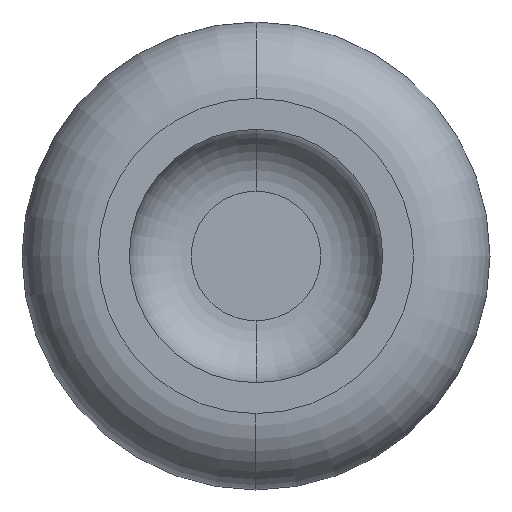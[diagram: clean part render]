
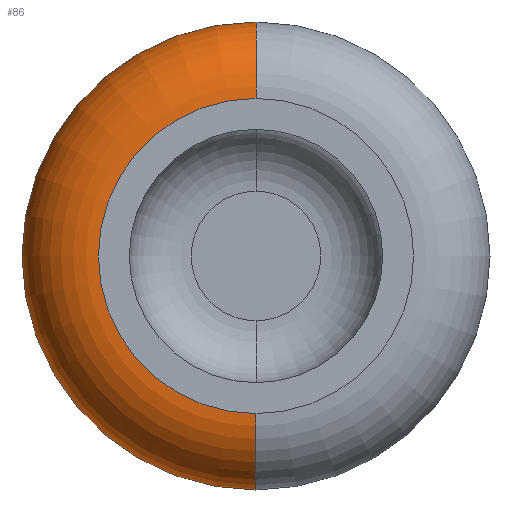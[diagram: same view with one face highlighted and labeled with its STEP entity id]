
A CAD part, left-side view. The second image highlights one B-rep face of the part: STEP entity #86.
In plain terms, the highlighted toroidal (fillet/blend) face has major radius 4.05 mm and minor radius 2 mm.
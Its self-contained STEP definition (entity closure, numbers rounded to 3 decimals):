
#86=ADVANCED_FACE('',(#199),#200,.T.);
#199=FACE_OUTER_BOUND('',#345,.T.);
#200=TOROIDAL_SURFACE('',#346,4.05,2.);
#345=EDGE_LOOP('',(#530,#531,#532,#533));
#346=AXIS2_PLACEMENT_3D('',#534,#535,#536);
#530=ORIENTED_EDGE('',*,*,#828,.T.);
#531=ORIENTED_EDGE('',*,*,#836,.F.);
#532=ORIENTED_EDGE('',*,*,#837,.F.);
#533=ORIENTED_EDGE('',*,*,#838,.F.);
#534=CARTESIAN_POINT('',(6.5,0.0,0.));
#535=DIRECTION('',(-1.0,0.0,0.));
#536=DIRECTION('',(0.,0.0,1.0));
#828=EDGE_CURVE('',#928,#927,#972,.T.);
#836=EDGE_CURVE('',#984,#927,#985,.T.);
#837=EDGE_CURVE('',#986,#984,#987,.T.);
#838=EDGE_CURVE('',#928,#986,#988,.T.);
#927=VERTEX_POINT('',#1107);
#928=VERTEX_POINT('',#1108);
#972=CIRCLE('',#1152,6.05);
#984=VERTEX_POINT('',#1166);
#985=CIRCLE('',#1167,2.);
#986=VERTEX_POINT('',#1168);
#987=CIRCLE('',#1169,4.05);
#988=CIRCLE('',#1170,2.);
#1107=CARTESIAN_POINT('',(6.5,0.,-6.05));
#1108=CARTESIAN_POINT('',(6.5,0.,6.05));
#1152=AXIS2_PLACEMENT_3D('',#1364,#1365,#1366);
#1166=CARTESIAN_POINT('',(4.5,0.,-4.05));
#1167=AXIS2_PLACEMENT_3D('',#1378,#1379,#1380);
#1168=CARTESIAN_POINT('',(4.5,0.,4.05));
#1169=AXIS2_PLACEMENT_3D('',#1381,#1382,#1383);
#1170=AXIS2_PLACEMENT_3D('',#1384,#1385,#1386);
#1364=CARTESIAN_POINT('',(6.5,0.0,0.));
#1365=DIRECTION('',(-1.0,0.0,0.));
#1366=DIRECTION('',(0.,0.0,1.0));
#1378=CARTESIAN_POINT('',(6.5,0.,-4.05));
#1379=DIRECTION('',(0.,-1.0,0.));
#1380=DIRECTION('',(0.,0.,-1.0));
#1381=CARTESIAN_POINT('',(4.5,0.0,0.));
#1382=DIRECTION('',(-1.0,0.0,0.));
#1383=DIRECTION('',(0.,0.0,-1.0));
#1384=CARTESIAN_POINT('',(6.5,0.,4.05));
#1385=DIRECTION('',(0.,-1.0,0.));
#1386=DIRECTION('',(0.,0.,1.0));
